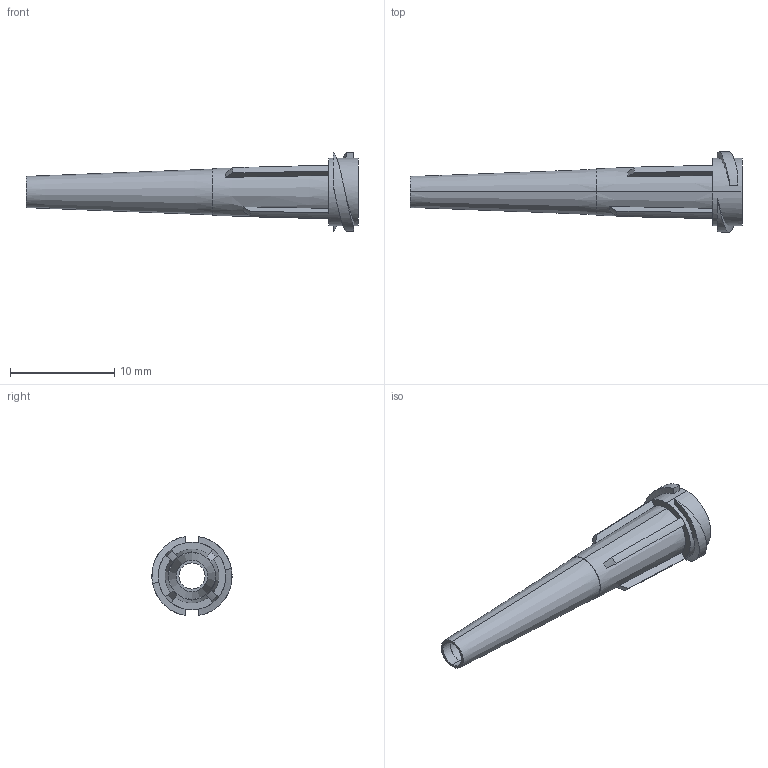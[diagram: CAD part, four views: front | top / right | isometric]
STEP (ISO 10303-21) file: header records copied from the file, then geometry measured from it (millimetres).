
FILE_DESCRIPTION (( 'STEP AP214' ), '1' );
FILE_NAME ('8001218_CUS.STEP', '2021-10-12T14:10:45', ( '' ), ( '' ), 'SwSTEP 2.0', 'SolidWorks 2020', '' );
FILE_SCHEMA (( 'AUTOMOTIVE_DESIGN' ));
Length unit declared in the file: millimetre
Products named in the file (1): 8001218_CUS
Bounding box: 31.9 x 7.69 x 7.59 mm (x, y, z)
Volume: 231.9 mm3; surface area: 908.2 mm2
Topology: 3 solids, 3 shells, 55 faces, 126 edges, 82 vertices
Faces by surface type: plane 25, cone 20, bspline 6, cylinder 4
Entity records: 1824 total; most frequent: CARTESIAN_POINT 554, DIRECTION 254, ORIENTED_EDGE 252, EDGE_CURVE 126, AXIS2_PLACEMENT_3D 100, VERTEX_POINT 82, EDGE_LOOP 62, FACE_OUTER_BOUND 55
